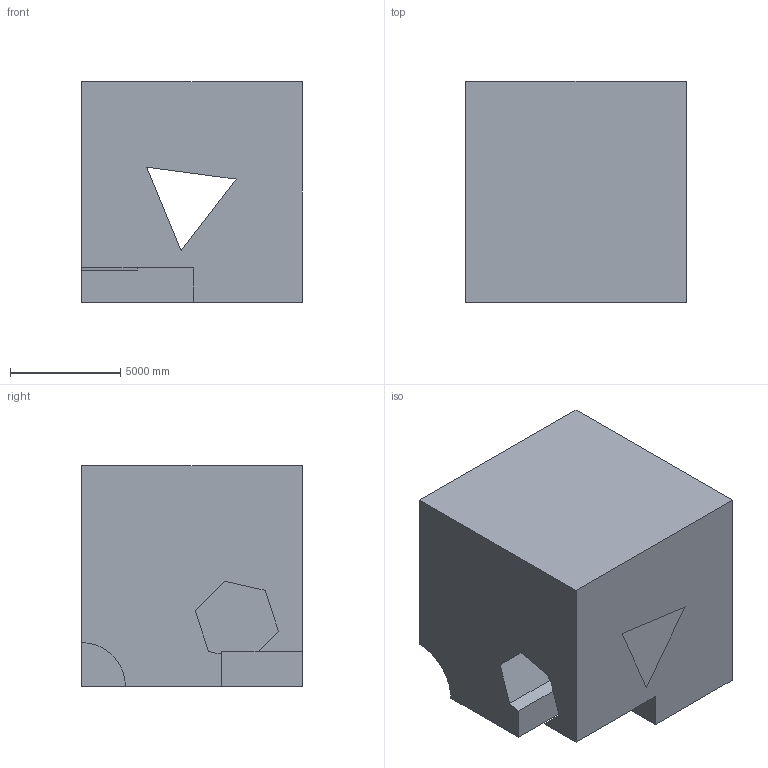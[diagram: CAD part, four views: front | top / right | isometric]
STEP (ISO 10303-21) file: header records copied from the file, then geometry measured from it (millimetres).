
FILE_DESCRIPTION (( 'STEP AP203' ), '1' );
FILE_NAME ('1395.STEP', '2022-08-18T14:13:25', ( 'user' ), ( '' ), 'SwSTEP 2.0', 'SolidWorks 2021', '' );
FILE_SCHEMA (( 'CONFIG_CONTROL_DESIGN' ));
Length unit declared in the file: centimetre
Products named in the file (1): 1395
Bounding box: 10000 x 10000 x 10000 mm (x, y, z)
Volume: 851233086689.2 mm3; surface area: 720991882.1 mm2
Topology: 1 solids, 1 shells, 21 faces, 57 edges, 38 vertices
Faces by surface type: plane 20, cylinder 1
Entity records: 734 total; most frequent: CARTESIAN_POINT 117, ORIENTED_EDGE 114, DIRECTION 103, EDGE_CURVE 57, VECTOR 55, LINE 55, VERTEX_POINT 38, AXIS2_PLACEMENT_3D 24
